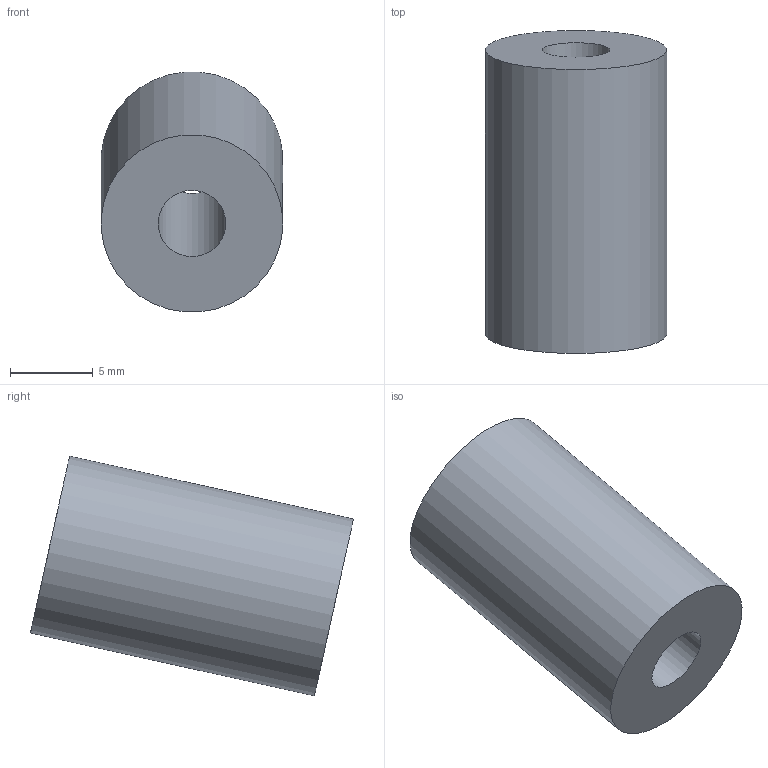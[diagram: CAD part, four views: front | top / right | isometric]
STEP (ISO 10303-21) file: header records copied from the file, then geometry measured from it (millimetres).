
FILE_DESCRIPTION(/* description */ (''),/* implementation_level */ '2;1');
FILE_NAME(/* name */ '4-17-2 Connector tube.step',/* time_stamp */ '2025-05-10T22:17:55+02:00',/* author */ (''),/* organization */ (''),/* preprocessor_version */ 'ST-DEVELOPER v20.1',/* originating_system */ 'Autodesk Translation Framework v14.4.0.0',/* authorisation */ '');
FILE_SCHEMA (('AUTOMOTIVE_DESIGN { 1 0 10303 214 3 1 1 }'));
Length unit declared in the file: millimetre
Products named in the file (1): Connector tube
Bounding box: 10.96 x 19.55 x 14.51 mm (x, y, z)
Volume: 1440.2 mm3; surface area: 998.6 mm2
Topology: 1 solids, 1 shells, 4 faces, 6 edges, 4 vertices
Faces by surface type: plane 2, cylinder 2
Full cylindrical faces by diameter (mm): 4.1 x1, 11 x1
Entity records: 138 total; most frequent: DIRECTION 20, CARTESIAN_POINT 15, ORIENTED_EDGE 12, AXIS2_PLACEMENT_3D 9, EDGE_LOOP 6, EDGE_CURVE 6, FACE_OUTER_BOUND 4, CIRCLE 4
